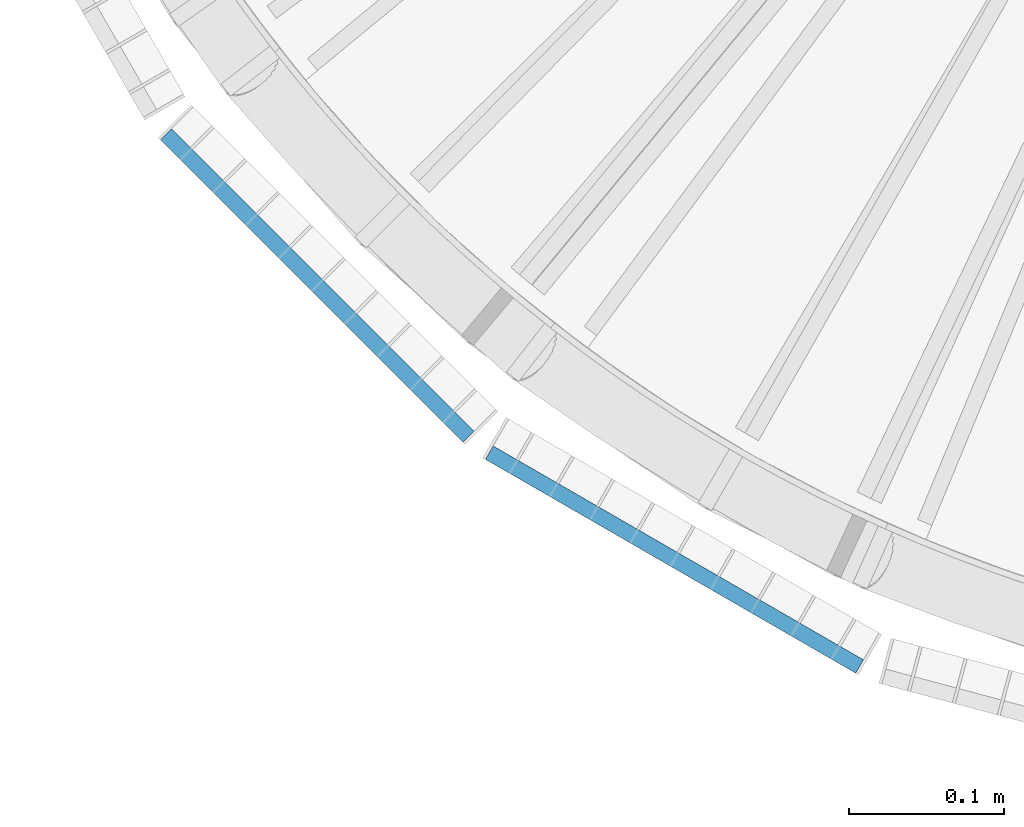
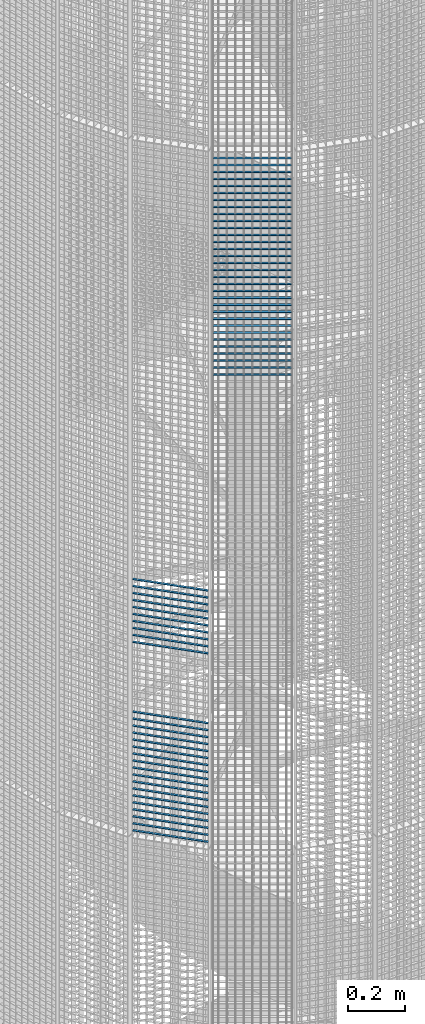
# One storey, part 353 of 1148: 60 beams, 2 elements without a shape of their own.
"""IFC2X3 building model written with IfcOpenShell, lengths in millimetres."""

from ifc_helpers import new_model, si_unit, frame, origin_with_axes, origin_2d_with_axis, place, context, subcontext, project, spatial, rectangle, extrude, material, type_object, element, aggregate, save


model = new_model("IFC2X3")

# Units and contexts
model_context = context("Model", 3, precision=1e-05, world=origin_with_axes())
body_context = subcontext(model_context, "Body", "Model", "MODEL_VIEW")
ifc_project = project(units=[si_unit("LENGTHUNIT", "METRE", prefix="MILLI"), si_unit("AREAUNIT", "SQUARE_METRE"), si_unit("VOLUMEUNIT", "CUBIC_METRE"), si_unit("MASSUNIT", "GRAM", prefix="KILO"), si_unit("TIMEUNIT", "SECOND"), si_unit("PLANEANGLEUNIT", "RADIAN"), si_unit("SOLIDANGLEUNIT", "STERADIAN"), si_unit("THERMODYNAMICTEMPERATUREUNIT", "DEGREE_CELSIUS"), si_unit("LUMINOUSINTENSITYUNIT", "LUMEN")], contexts=[model_context])

# Site, building, storey
site_placement = place(None, origin_with_axes())
site = spatial("IfcSite", under=ifc_project, at=site_placement, Name="Undefined", CompositionType="ELEMENT")
building_placement = place(site_placement, origin_with_axes())
building = spatial("IfcBuilding", under=site, at=building_placement, Name="Undefined", CompositionType="ELEMENT")
storey_placement = place(building_placement, origin_with_axes())
storey = spatial("IfcBuildingStorey", under=building, at=storey_placement, Name="Undefined", CompositionType="ELEMENT", Elevation=0.0)

# Assembly, beams
assembly_1_placement = place(storey_placement, origin_with_axes())
assembly_1 = element("IfcElementAssembly", 1, at=assembly_1_placement, inside=storey, Name="BORDURE", AssemblyPlace="NOTDEFINED", PredefinedType="NOTDEFINED")
ifc_material = material(Name="STEEL/S235JR")
beam_type = type_object("IfcBeamType", Name="PL2*10", PredefinedType="NOTDEFINED")
beam_1_placement = place(assembly_1_placement, frame((20910.2286510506, -884.927168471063, 6540.0), z_axis=(-0.70710678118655, -0.707106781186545, 0.0), x_axis=(-0.707106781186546, 0.707106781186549, 0.0)))
beam_1 = element("IfcBeam", 2, at=beam_1_placement, type_object=beam_type, material=ifc_material, Name="ENTRETOISE", context=body_context, shape_type="SweptSolid", body=[
    extrude(rectangle(XDim=2.0, YDim=10.0, at=origin_2d_with_axis()), frame((275.999999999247, 9.09494701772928e-13, 1.53210777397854e-14), z_axis=(-1.0, 0.0, 0.0), x_axis=(0.0, -1.0, 0.0)), (0.0, 0.0, 1.0), 276.0),
])
beam_2_placement = place(assembly_1_placement, frame((20910.2286510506, -884.927168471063, 6840.0), z_axis=(-0.70710678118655, -0.707106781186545, 0.0), x_axis=(-0.707106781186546, 0.707106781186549, 0.0)))
beam_2 = element("IfcBeam", 3, at=beam_2_placement, type_object=beam_type, material=ifc_material, Name="ENTRETOISE", context=body_context, shape_type="SweptSolid", body=[
    extrude(rectangle(XDim=2.0, YDim=10.0, at=origin_2d_with_axis()), frame((275.999999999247, 9.09494701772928e-13, 1.53210777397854e-14), z_axis=(-1.0, 0.0, 0.0), x_axis=(0.0, -1.0, 0.0)), (0.0, 0.0, 1.0), 276.0),
])
beam_3_placement = place(assembly_1_placement, frame((20910.2286510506, -884.927168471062, 6510.0), z_axis=(-0.70710678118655, -0.707106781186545, 0.0), x_axis=(-0.707106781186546, 0.707106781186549, 0.0)))
beam_3 = element("IfcBeam", 4, at=beam_3_placement, type_object=beam_type, material=ifc_material, Name="ENTRETOISE", context=body_context, shape_type="SweptSolid", body=[
    extrude(rectangle(XDim=2.0, YDim=10.0, at=origin_2d_with_axis()), frame((275.999999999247, 9.09494701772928e-13, 1.53210777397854e-14), z_axis=(-1.0, 0.0, 0.0), x_axis=(0.0, -1.0, 0.0)), (0.0, 0.0, 1.0), 276.0),
])
beam_4_placement = place(assembly_1_placement, frame((20910.2286510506, -884.927168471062, 6480.0), z_axis=(-0.70710678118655, -0.707106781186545, 0.0), x_axis=(-0.707106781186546, 0.707106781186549, 0.0)))
beam_4 = element("IfcBeam", 5, at=beam_4_placement, type_object=beam_type, material=ifc_material, Name="ENTRETOISE", context=body_context, shape_type="SweptSolid", body=[
    extrude(rectangle(XDim=2.0, YDim=10.0, at=origin_2d_with_axis()), frame((275.999999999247, 9.09494701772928e-13, 1.53210777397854e-14), z_axis=(-1.0, 0.0, 0.0), x_axis=(0.0, -1.0, 0.0)), (0.0, 0.0, 1.0), 276.0),
])
beam_5_placement = place(assembly_1_placement, frame((20910.2286510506, -884.927168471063, 6870.0), z_axis=(-0.70710678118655, -0.707106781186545, 0.0), x_axis=(-0.707106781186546, 0.707106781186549, 0.0)))
beam_5 = element("IfcBeam", 6, at=beam_5_placement, type_object=beam_type, material=ifc_material, Name="ENTRETOISE", context=body_context, shape_type="SweptSolid", body=[
    extrude(rectangle(XDim=2.0, YDim=10.0, at=origin_2d_with_axis()), frame((275.999999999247, 9.09494701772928e-13, 1.53210777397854e-14), z_axis=(-1.0, 0.0, 0.0), x_axis=(0.0, -1.0, 0.0)), (0.0, 0.0, 1.0), 276.0),
])
beam_6_placement = place(assembly_1_placement, frame((20910.2286510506, -884.927168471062, 6450.0), z_axis=(-0.70710678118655, -0.707106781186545, 0.0), x_axis=(-0.707106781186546, 0.707106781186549, 0.0)))
beam_6 = element("IfcBeam", 7, at=beam_6_placement, type_object=beam_type, material=ifc_material, Name="ENTRETOISE", context=body_context, shape_type="SweptSolid", body=[
    extrude(rectangle(XDim=2.0, YDim=10.0, at=origin_2d_with_axis()), frame((275.999999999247, 9.09494701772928e-13, 1.53210777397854e-14), z_axis=(-1.0, 0.0, 0.0), x_axis=(0.0, -1.0, 0.0)), (0.0, 0.0, 1.0), 276.0),
])
beam_7_placement = place(assembly_1_placement, frame((20910.2286510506, -884.927168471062, 6420.0), z_axis=(-0.70710678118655, -0.707106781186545, 0.0), x_axis=(-0.707106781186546, 0.707106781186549, 0.0)))
beam_7 = element("IfcBeam", 8, at=beam_7_placement, type_object=beam_type, material=ifc_material, Name="ENTRETOISE", context=body_context, shape_type="SweptSolid", body=[
    extrude(rectangle(XDim=2.0, YDim=10.0, at=origin_2d_with_axis()), frame((275.999999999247, 9.09494701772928e-13, 1.53210777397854e-14), z_axis=(-1.0, 0.0, 0.0), x_axis=(0.0, -1.0, 0.0)), (0.0, 0.0, 1.0), 276.0),
])
beam_8_placement = place(assembly_1_placement, frame((20910.2286510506, -884.927168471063, 6900.0), z_axis=(-0.70710678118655, -0.707106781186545, 0.0), x_axis=(-0.707106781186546, 0.707106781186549, 0.0)))
beam_8 = element("IfcBeam", 9, at=beam_8_placement, type_object=beam_type, material=ifc_material, Name="ENTRETOISE", context=body_context, shape_type="SweptSolid", body=[
    extrude(rectangle(XDim=2.0, YDim=10.0, at=origin_2d_with_axis()), frame((275.999999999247, 9.09494701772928e-13, 1.53210777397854e-14), z_axis=(-1.0, 0.0, 0.0), x_axis=(0.0, -1.0, 0.0)), (0.0, 0.0, 1.0), 276.0),
])
beam_9_placement = place(assembly_1_placement, frame((20910.2286510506, -884.927168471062, 6390.0), z_axis=(-0.70710678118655, -0.707106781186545, 0.0), x_axis=(-0.707106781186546, 0.707106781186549, 0.0)))
beam_9 = element("IfcBeam", 10, at=beam_9_placement, type_object=beam_type, material=ifc_material, Name="ENTRETOISE", context=body_context, shape_type="SweptSolid", body=[
    extrude(rectangle(XDim=2.0, YDim=10.0, at=origin_2d_with_axis()), frame((275.999999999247, 9.09494701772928e-13, 1.53210777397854e-14), z_axis=(-1.0, 0.0, 0.0), x_axis=(0.0, -1.0, 0.0)), (0.0, 0.0, 1.0), 276.0),
])
beam_10_placement = place(assembly_1_placement, frame((20910.2286510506, -884.927168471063, 6930.0), z_axis=(-0.70710678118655, -0.707106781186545, 0.0), x_axis=(-0.707106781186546, 0.707106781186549, 0.0)))
beam_10 = element("IfcBeam", 11, at=beam_10_placement, type_object=beam_type, material=ifc_material, Name="ENTRETOISE", context=body_context, shape_type="SweptSolid", body=[
    extrude(rectangle(XDim=2.0, YDim=10.0, at=origin_2d_with_axis()), frame((275.999999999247, 9.09494701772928e-13, 1.53210777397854e-14), z_axis=(-1.0, 0.0, 0.0), x_axis=(0.0, -1.0, 0.0)), (0.0, 0.0, 1.0), 276.0),
])
beam_11_placement = place(assembly_1_placement, frame((20910.2286510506, -884.927168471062, 6360.0), z_axis=(-0.70710678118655, -0.707106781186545, 0.0), x_axis=(-0.707106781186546, 0.707106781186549, 0.0)))
beam_11 = element("IfcBeam", 12, at=beam_11_placement, type_object=beam_type, material=ifc_material, Name="ENTRETOISE", context=body_context, shape_type="SweptSolid", body=[
    extrude(rectangle(XDim=2.0, YDim=10.0, at=origin_2d_with_axis()), frame((275.999999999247, 9.09494701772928e-13, 1.53210777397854e-14), z_axis=(-1.0, 0.0, 0.0), x_axis=(0.0, -1.0, 0.0)), (0.0, 0.0, 1.0), 276.0),
])
beam_12_placement = place(assembly_1_placement, frame((20910.2286510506, -884.927168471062, 6330.0), z_axis=(-0.70710678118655, -0.707106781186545, 0.0), x_axis=(-0.707106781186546, 0.707106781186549, 0.0)))
beam_12 = element("IfcBeam", 13, at=beam_12_placement, type_object=beam_type, material=ifc_material, Name="ENTRETOISE", context=body_context, shape_type="SweptSolid", body=[
    extrude(rectangle(XDim=2.0, YDim=10.0, at=origin_2d_with_axis()), frame((275.999999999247, 9.09494701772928e-13, 1.53210777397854e-14), z_axis=(-1.0, 0.0, 0.0), x_axis=(0.0, -1.0, 0.0)), (0.0, 0.0, 1.0), 276.0),
])
beam_13_placement = place(assembly_1_placement, frame((20910.2286510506, -884.927168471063, 6960.0), z_axis=(-0.70710678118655, -0.707106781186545, 0.0), x_axis=(-0.707106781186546, 0.707106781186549, 0.0)))
beam_13 = element("IfcBeam", 14, at=beam_13_placement, type_object=beam_type, material=ifc_material, Name="ENTRETOISE", context=body_context, shape_type="SweptSolid", body=[
    extrude(rectangle(XDim=2.0, YDim=10.0, at=origin_2d_with_axis()), frame((275.999999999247, 9.09494701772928e-13, 1.53210777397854e-14), z_axis=(-1.0, 0.0, 0.0), x_axis=(0.0, -1.0, 0.0)), (0.0, 0.0, 1.0), 276.0),
])
beam_14_placement = place(assembly_1_placement, frame((20910.2286510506, -884.927168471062, 6300.0), z_axis=(-0.70710678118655, -0.707106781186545, 0.0), x_axis=(-0.707106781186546, 0.707106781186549, 0.0)))
beam_14 = element("IfcBeam", 15, at=beam_14_placement, type_object=beam_type, material=ifc_material, Name="ENTRETOISE", context=body_context, shape_type="SweptSolid", body=[
    extrude(rectangle(XDim=2.0, YDim=10.0, at=origin_2d_with_axis()), frame((275.999999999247, 9.09494701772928e-13, 1.53210777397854e-14), z_axis=(-1.0, 0.0, 0.0), x_axis=(0.0, -1.0, 0.0)), (0.0, 0.0, 1.0), 276.0),
])
beam_15_placement = place(assembly_1_placement, frame((20910.2286510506, -884.927168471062, 6270.0), z_axis=(-0.70710678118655, -0.707106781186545, 0.0), x_axis=(-0.707106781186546, 0.707106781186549, 0.0)))
beam_15 = element("IfcBeam", 16, at=beam_15_placement, type_object=beam_type, material=ifc_material, Name="ENTRETOISE", context=body_context, shape_type="SweptSolid", body=[
    extrude(rectangle(XDim=2.0, YDim=10.0, at=origin_2d_with_axis()), frame((275.999999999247, 9.09494701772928e-13, 1.53210777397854e-14), z_axis=(-1.0, 0.0, 0.0), x_axis=(0.0, -1.0, 0.0)), (0.0, 0.0, 1.0), 276.0),
])
beam_16_placement = place(assembly_1_placement, frame((20910.2286510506, -884.927168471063, 6990.0), z_axis=(-0.70710678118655, -0.707106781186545, 0.0), x_axis=(-0.707106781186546, 0.707106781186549, 0.0)))
beam_16 = element("IfcBeam", 17, at=beam_16_placement, type_object=beam_type, material=ifc_material, Name="ENTRETOISE", context=body_context, shape_type="SweptSolid", body=[
    extrude(rectangle(XDim=2.0, YDim=10.0, at=origin_2d_with_axis()), frame((275.999999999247, 9.09494701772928e-13, 1.53210777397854e-14), z_axis=(-1.0, 0.0, 0.0), x_axis=(0.0, -1.0, 0.0)), (0.0, 0.0, 1.0), 276.0),
])
beam_17_placement = place(assembly_1_placement, frame((20910.2286510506, -884.927168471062, 6240.0), z_axis=(-0.70710678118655, -0.707106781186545, 0.0), x_axis=(-0.707106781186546, 0.707106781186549, 0.0)))
beam_17 = element("IfcBeam", 18, at=beam_17_placement, type_object=beam_type, material=ifc_material, Name="ENTRETOISE", context=body_context, shape_type="SweptSolid", body=[
    extrude(rectangle(XDim=2.0, YDim=10.0, at=origin_2d_with_axis()), frame((275.999999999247, 9.09494701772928e-13, 1.53210777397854e-14), z_axis=(-1.0, 0.0, 0.0), x_axis=(0.0, -1.0, 0.0)), (0.0, 0.0, 1.0), 276.0),
])
beam_18_placement = place(assembly_1_placement, frame((20910.2286510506, -884.927168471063, 7020.0), z_axis=(-0.70710678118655, -0.707106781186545, 0.0), x_axis=(-0.707106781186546, 0.707106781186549, 0.0)))
beam_18 = element("IfcBeam", 19, at=beam_18_placement, type_object=beam_type, material=ifc_material, Name="ENTRETOISE", context=body_context, shape_type="SweptSolid", body=[
    extrude(rectangle(XDim=2.0, YDim=10.0, at=origin_2d_with_axis()), frame((275.999999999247, 9.09494701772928e-13, 1.53210777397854e-14), z_axis=(-1.0, 0.0, 0.0), x_axis=(0.0, -1.0, 0.0)), (0.0, 0.0, 1.0), 276.0),
])
beam_19_placement = place(assembly_1_placement, frame((20910.2286510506, -884.927168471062, 6210.0), z_axis=(-0.70710678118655, -0.707106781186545, 0.0), x_axis=(-0.707106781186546, 0.707106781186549, 0.0)))
beam_19 = element("IfcBeam", 20, at=beam_19_placement, type_object=beam_type, material=ifc_material, Name="ENTRETOISE", context=body_context, shape_type="SweptSolid", body=[
    extrude(rectangle(XDim=2.0, YDim=10.0, at=origin_2d_with_axis()), frame((275.999999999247, 9.09494701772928e-13, 1.53210777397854e-14), z_axis=(-1.0, 0.0, 0.0), x_axis=(0.0, -1.0, 0.0)), (0.0, 0.0, 1.0), 276.0),
])
beam_20_placement = place(assembly_1_placement, frame((20910.2286510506, -884.927168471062, 6180.0), z_axis=(-0.70710678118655, -0.707106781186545, 0.0), x_axis=(-0.707106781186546, 0.707106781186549, 0.0)))
beam_20 = element("IfcBeam", 21, at=beam_20_placement, type_object=beam_type, material=ifc_material, Name="ENTRETOISE", context=body_context, shape_type="SweptSolid", body=[
    extrude(rectangle(XDim=2.0, YDim=10.0, at=origin_2d_with_axis()), frame((275.999999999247, 9.09494701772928e-13, 1.53210777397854e-14), z_axis=(-1.0, 0.0, 0.0), x_axis=(0.0, -1.0, 0.0)), (0.0, 0.0, 1.0), 276.0),
])
beam_21_placement = place(assembly_1_placement, frame((20910.2286510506, -884.927168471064, 7050.0), z_axis=(-0.70710678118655, -0.707106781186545, 0.0), x_axis=(-0.707106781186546, 0.707106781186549, 0.0)))
beam_21 = element("IfcBeam", 22, at=beam_21_placement, type_object=beam_type, material=ifc_material, Name="ENTRETOISE", context=body_context, shape_type="SweptSolid", body=[
    extrude(rectangle(XDim=2.0, YDim=10.0, at=origin_2d_with_axis()), frame((275.999999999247, 9.09494701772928e-13, 1.53210777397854e-14), z_axis=(-1.0, 0.0, 0.0), x_axis=(0.0, -1.0, 0.0)), (0.0, 0.0, 1.0), 276.0),
])
beam_22_placement = place(assembly_1_placement, frame((20910.2286510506, -884.927168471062, 6150.0), z_axis=(-0.70710678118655, -0.707106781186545, 0.0), x_axis=(-0.707106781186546, 0.707106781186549, 0.0)))
beam_22 = element("IfcBeam", 23, at=beam_22_placement, type_object=beam_type, material=ifc_material, Name="ENTRETOISE", context=body_context, shape_type="SweptSolid", body=[
    extrude(rectangle(XDim=2.0, YDim=10.0, at=origin_2d_with_axis()), frame((275.999999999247, 9.09494701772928e-13, 1.53210777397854e-14), z_axis=(-1.0, 0.0, 0.0), x_axis=(0.0, -1.0, 0.0)), (0.0, 0.0, 1.0), 276.0),
])
beam_23_placement = place(assembly_1_placement, frame((20910.2286510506, -884.927168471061, 6120.0), z_axis=(-0.70710678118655, -0.707106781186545, 0.0), x_axis=(-0.707106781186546, 0.707106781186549, 0.0)))
beam_23 = element("IfcBeam", 24, at=beam_23_placement, type_object=beam_type, material=ifc_material, Name="ENTRETOISE", context=body_context, shape_type="SweptSolid", body=[
    extrude(rectangle(XDim=2.0, YDim=10.0, at=origin_2d_with_axis()), frame((275.999999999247, 9.09494701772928e-13, 1.53210777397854e-14), z_axis=(-1.0, 0.0, 0.0), x_axis=(0.0, -1.0, 0.0)), (0.0, 0.0, 1.0), 276.0),
])
beam_24_placement = place(assembly_1_placement, frame((20910.2286510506, -884.927168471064, 7080.0), z_axis=(-0.70710678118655, -0.707106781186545, 0.0), x_axis=(-0.707106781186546, 0.707106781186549, 0.0)))
beam_24 = element("IfcBeam", 25, at=beam_24_placement, type_object=beam_type, material=ifc_material, Name="ENTRETOISE", context=body_context, shape_type="SweptSolid", body=[
    extrude(rectangle(XDim=2.0, YDim=10.0, at=origin_2d_with_axis()), frame((275.999999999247, 9.09494701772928e-13, 1.53210777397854e-14), z_axis=(-1.0, 0.0, 0.0), x_axis=(0.0, -1.0, 0.0)), (0.0, 0.0, 1.0), 276.0),
])
beam_25_placement = place(assembly_1_placement, frame((20910.2286510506, -884.927168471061, 6090.0), z_axis=(-0.70710678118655, -0.707106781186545, 0.0), x_axis=(-0.707106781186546, 0.707106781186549, 0.0)))
beam_25 = element("IfcBeam", 26, at=beam_25_placement, type_object=beam_type, material=ifc_material, Name="ENTRETOISE", context=body_context, shape_type="SweptSolid", body=[
    extrude(rectangle(XDim=2.0, YDim=10.0, at=origin_2d_with_axis()), frame((275.999999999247, 9.09494701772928e-13, 1.53210777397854e-14), z_axis=(-1.0, 0.0, 0.0), x_axis=(0.0, -1.0, 0.0)), (0.0, 0.0, 1.0), 276.0),
])
beam_26_placement = place(assembly_1_placement, frame((20910.2286510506, -884.927168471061, 6060.0), z_axis=(-0.70710678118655, -0.707106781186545, 0.0), x_axis=(-0.707106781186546, 0.707106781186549, 0.0)))
beam_26 = element("IfcBeam", 27, at=beam_26_placement, type_object=beam_type, material=ifc_material, Name="ENTRETOISE", context=body_context, shape_type="SweptSolid", body=[
    extrude(rectangle(XDim=2.0, YDim=10.0, at=origin_2d_with_axis()), frame((275.999999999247, 9.09494701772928e-13, 1.53210777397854e-14), z_axis=(-1.0, 0.0, 0.0), x_axis=(0.0, -1.0, 0.0)), (0.0, 0.0, 1.0), 276.0),
])
beam_27_placement = place(assembly_1_placement, frame((20910.2286510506, -884.927168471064, 7110.0), z_axis=(-0.70710678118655, -0.707106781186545, 0.0), x_axis=(-0.707106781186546, 0.707106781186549, 0.0)))
beam_27 = element("IfcBeam", 28, at=beam_27_placement, type_object=beam_type, material=ifc_material, Name="ENTRETOISE", context=body_context, shape_type="SweptSolid", body=[
    extrude(rectangle(XDim=2.0, YDim=10.0, at=origin_2d_with_axis()), frame((275.999999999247, 9.09494701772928e-13, 1.53210777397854e-14), z_axis=(-1.0, 0.0, 0.0), x_axis=(0.0, -1.0, 0.0)), (0.0, 0.0, 1.0), 276.0),
])
beam_28_placement = place(assembly_1_placement, frame((20910.2286510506, -884.92716847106, 6030.0), z_axis=(-0.70710678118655, -0.707106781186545, 0.0), x_axis=(-0.707106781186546, 0.707106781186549, 0.0)))
beam_28 = element("IfcBeam", 29, at=beam_28_placement, type_object=beam_type, material=ifc_material, Name="ENTRETOISE", context=body_context, shape_type="SweptSolid", body=[
    extrude(rectangle(XDim=2.0, YDim=10.0, at=origin_2d_with_axis()), frame((275.999999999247, 9.09494701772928e-13, 1.53210777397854e-14), z_axis=(-1.0, 0.0, 0.0), x_axis=(0.0, -1.0, 0.0)), (0.0, 0.0, 1.0), 276.0),
])
aggregate(assembly_1, [beam_1, beam_2, beam_3, beam_4, beam_5, beam_6, beam_7, beam_8, beam_9, beam_10, beam_11, beam_12, beam_13, beam_14, beam_15, beam_16, beam_17, beam_18, beam_19, beam_20, beam_21, beam_22, beam_23, beam_24, beam_25, beam_26, beam_27, beam_28])

assembly_2_placement = place(storey_placement, origin_with_axes())
assembly_2 = element("IfcElementAssembly", 30, at=assembly_2_placement, inside=storey, Name="BORDURE", AssemblyPlace="NOTDEFINED", PredefinedType="NOTDEFINED")
beam_29_placement = place(assembly_2_placement, frame((21162.7680445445, -1033.29996828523, 8970.0), z_axis=(-0.49999999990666, -0.866025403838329, 0.0), x_axis=(-0.866025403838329, 0.499999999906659, 0.0)))
beam_29 = element("IfcBeam", 31, at=beam_29_placement, type_object=beam_type, material=ifc_material, Name="ENTRETOISE", context=body_context, shape_type="SweptSolid", body=[
    extrude(rectangle(XDim=2.0, YDim=10.0, at=origin_2d_with_axis()), frame((275.999999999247, 9.09494701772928e-13, 1.53210777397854e-14), z_axis=(-1.0, 0.0, 0.0), x_axis=(0.0, -1.0, 0.0)), (0.0, 0.0, 1.0), 276.0),
])
beam_30_placement = place(assembly_2_placement, frame((21162.7680445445, -1033.29996828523, 8940.0), z_axis=(-0.49999999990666, -0.866025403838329, 0.0), x_axis=(-0.866025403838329, 0.499999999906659, 0.0)))
beam_30 = element("IfcBeam", 32, at=beam_30_placement, type_object=beam_type, material=ifc_material, Name="ENTRETOISE", context=body_context, shape_type="SweptSolid", body=[
    extrude(rectangle(XDim=2.0, YDim=10.0, at=origin_2d_with_axis()), frame((275.999999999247, 9.09494701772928e-13, 1.53210777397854e-14), z_axis=(-1.0, 0.0, 0.0), x_axis=(0.0, -1.0, 0.0)), (0.0, 0.0, 1.0), 276.0),
])
beam_31_placement = place(assembly_2_placement, frame((21162.7680445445, -1033.29996828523, 8910.0), z_axis=(-0.49999999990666, -0.866025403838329, 0.0), x_axis=(-0.866025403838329, 0.499999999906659, 0.0)))
beam_31 = element("IfcBeam", 33, at=beam_31_placement, type_object=beam_type, material=ifc_material, Name="ENTRETOISE", context=body_context, shape_type="SweptSolid", body=[
    extrude(rectangle(XDim=2.0, YDim=10.0, at=origin_2d_with_axis()), frame((275.999999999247, 9.09494701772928e-13, 1.53210777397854e-14), z_axis=(-1.0, 0.0, 0.0), x_axis=(0.0, -1.0, 0.0)), (0.0, 0.0, 1.0), 276.0),
])
beam_32_placement = place(assembly_2_placement, frame((21162.7680445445, -1033.29996828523, 8880.0), z_axis=(-0.49999999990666, -0.866025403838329, 0.0), x_axis=(-0.866025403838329, 0.499999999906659, 0.0)))
beam_32 = element("IfcBeam", 34, at=beam_32_placement, type_object=beam_type, material=ifc_material, Name="ENTRETOISE", context=body_context, shape_type="SweptSolid", body=[
    extrude(rectangle(XDim=2.0, YDim=10.0, at=origin_2d_with_axis()), frame((275.999999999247, 9.09494701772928e-13, 1.53210777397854e-14), z_axis=(-1.0, 0.0, 0.0), x_axis=(0.0, -1.0, 0.0)), (0.0, 0.0, 1.0), 276.0),
])
beam_33_placement = place(assembly_2_placement, frame((21162.7680445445, -1033.29996828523, 8850.0), z_axis=(-0.49999999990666, -0.866025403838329, 0.0), x_axis=(-0.866025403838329, 0.499999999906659, 0.0)))
beam_33 = element("IfcBeam", 35, at=beam_33_placement, type_object=beam_type, material=ifc_material, Name="ENTRETOISE", context=body_context, shape_type="SweptSolid", body=[
    extrude(rectangle(XDim=2.0, YDim=10.0, at=origin_2d_with_axis()), frame((275.999999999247, 9.09494701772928e-13, 1.53210777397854e-14), z_axis=(-1.0, 0.0, 0.0), x_axis=(0.0, -1.0, 0.0)), (0.0, 0.0, 1.0), 276.0),
])
beam_34_placement = place(assembly_2_placement, frame((21162.7680445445, -1033.29996828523, 8820.0), z_axis=(-0.49999999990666, -0.866025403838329, 0.0), x_axis=(-0.866025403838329, 0.499999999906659, 0.0)))
beam_34 = element("IfcBeam", 36, at=beam_34_placement, type_object=beam_type, material=ifc_material, Name="ENTRETOISE", context=body_context, shape_type="SweptSolid", body=[
    extrude(rectangle(XDim=2.0, YDim=10.0, at=origin_2d_with_axis()), frame((275.999999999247, 9.09494701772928e-13, 1.53210777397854e-14), z_axis=(-1.0, 0.0, 0.0), x_axis=(0.0, -1.0, 0.0)), (0.0, 0.0, 1.0), 276.0),
])
beam_35_placement = place(assembly_2_placement, frame((21162.7680445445, -1033.29996828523, 8790.0), z_axis=(-0.49999999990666, -0.866025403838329, 0.0), x_axis=(-0.866025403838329, 0.499999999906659, 0.0)))
beam_35 = element("IfcBeam", 37, at=beam_35_placement, type_object=beam_type, material=ifc_material, Name="ENTRETOISE", context=body_context, shape_type="SweptSolid", body=[
    extrude(rectangle(XDim=2.0, YDim=10.0, at=origin_2d_with_axis()), frame((275.999999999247, 9.09494701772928e-13, 1.53210777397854e-14), z_axis=(-1.0, 0.0, 0.0), x_axis=(0.0, -1.0, 0.0)), (0.0, 0.0, 1.0), 276.0),
])
beam_36_placement = place(assembly_2_placement, frame((21162.7680445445, -1033.29996828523, 8760.0), z_axis=(-0.49999999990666, -0.866025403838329, 0.0), x_axis=(-0.866025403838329, 0.499999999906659, 0.0)))
beam_36 = element("IfcBeam", 38, at=beam_36_placement, type_object=beam_type, material=ifc_material, Name="ENTRETOISE", context=body_context, shape_type="SweptSolid", body=[
    extrude(rectangle(XDim=2.0, YDim=10.0, at=origin_2d_with_axis()), frame((275.999999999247, 9.09494701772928e-13, 1.53210777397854e-14), z_axis=(-1.0, 0.0, 0.0), x_axis=(0.0, -1.0, 0.0)), (0.0, 0.0, 1.0), 276.0),
])
beam_37_placement = place(assembly_2_placement, frame((21162.7680445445, -1033.29996828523, 8730.0), z_axis=(-0.49999999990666, -0.866025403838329, 0.0), x_axis=(-0.866025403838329, 0.499999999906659, 0.0)))
beam_37 = element("IfcBeam", 39, at=beam_37_placement, type_object=beam_type, material=ifc_material, Name="ENTRETOISE", context=body_context, shape_type="SweptSolid", body=[
    extrude(rectangle(XDim=2.0, YDim=10.0, at=origin_2d_with_axis()), frame((275.999999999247, 9.09494701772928e-13, 1.53210777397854e-14), z_axis=(-1.0, 0.0, 0.0), x_axis=(0.0, -1.0, 0.0)), (0.0, 0.0, 1.0), 276.0),
])
beam_38_placement = place(assembly_2_placement, frame((21162.7680445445, -1033.29996828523, 8700.0), z_axis=(-0.49999999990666, -0.866025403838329, 0.0), x_axis=(-0.866025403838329, 0.499999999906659, 0.0)))
beam_38 = element("IfcBeam", 40, at=beam_38_placement, type_object=beam_type, material=ifc_material, Name="ENTRETOISE", context=body_context, shape_type="SweptSolid", body=[
    extrude(rectangle(XDim=2.0, YDim=10.0, at=origin_2d_with_axis()), frame((275.999999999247, 9.09494701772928e-13, 1.53210777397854e-14), z_axis=(-1.0, 0.0, 0.0), x_axis=(0.0, -1.0, 0.0)), (0.0, 0.0, 1.0), 276.0),
])
beam_39_placement = place(assembly_2_placement, frame((21162.7680445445, -1033.29996828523, 8670.0), z_axis=(-0.49999999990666, -0.866025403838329, 0.0), x_axis=(-0.866025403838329, 0.499999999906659, 0.0)))
beam_39 = element("IfcBeam", 41, at=beam_39_placement, type_object=beam_type, material=ifc_material, Name="ENTRETOISE", context=body_context, shape_type="SweptSolid", body=[
    extrude(rectangle(XDim=2.0, YDim=10.0, at=origin_2d_with_axis()), frame((275.999999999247, 9.09494701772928e-13, 1.53210777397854e-14), z_axis=(-1.0, 0.0, 0.0), x_axis=(0.0, -1.0, 0.0)), (0.0, 0.0, 1.0), 276.0),
])
beam_40_placement = place(assembly_2_placement, frame((21162.7680445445, -1033.29996828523, 8640.0), z_axis=(-0.49999999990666, -0.866025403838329, 0.0), x_axis=(-0.866025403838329, 0.499999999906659, 0.0)))
beam_40 = element("IfcBeam", 42, at=beam_40_placement, type_object=beam_type, material=ifc_material, Name="ENTRETOISE", context=body_context, shape_type="SweptSolid", body=[
    extrude(rectangle(XDim=2.0, YDim=10.0, at=origin_2d_with_axis()), frame((275.999999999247, 9.09494701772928e-13, 1.53210777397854e-14), z_axis=(-1.0, 0.0, 0.0), x_axis=(0.0, -1.0, 0.0)), (0.0, 0.0, 1.0), 276.0),
])
beam_41_placement = place(assembly_2_placement, frame((21162.7680445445, -1033.29996828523, 8610.0), z_axis=(-0.49999999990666, -0.866025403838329, 0.0), x_axis=(-0.866025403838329, 0.499999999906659, 0.0)))
beam_41 = element("IfcBeam", 43, at=beam_41_placement, type_object=beam_type, material=ifc_material, Name="ENTRETOISE", context=body_context, shape_type="SweptSolid", body=[
    extrude(rectangle(XDim=2.0, YDim=10.0, at=origin_2d_with_axis()), frame((275.999999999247, 9.09494701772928e-13, 1.53210777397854e-14), z_axis=(-1.0, 0.0, 0.0), x_axis=(0.0, -1.0, 0.0)), (0.0, 0.0, 1.0), 276.0),
])
beam_42_placement = place(assembly_2_placement, frame((21162.7680445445, -1033.29996828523, 8580.0), z_axis=(-0.49999999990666, -0.866025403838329, 0.0), x_axis=(-0.866025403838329, 0.499999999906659, 0.0)))
beam_42 = element("IfcBeam", 44, at=beam_42_placement, type_object=beam_type, material=ifc_material, Name="ENTRETOISE", context=body_context, shape_type="SweptSolid", body=[
    extrude(rectangle(XDim=2.0, YDim=10.0, at=origin_2d_with_axis()), frame((275.999999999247, 9.09494701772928e-13, 1.53210777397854e-14), z_axis=(-1.0, 0.0, 0.0), x_axis=(0.0, -1.0, 0.0)), (0.0, 0.0, 1.0), 276.0),
])
beam_43_placement = place(assembly_2_placement, frame((21162.7680445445, -1033.29996828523, 8550.0), z_axis=(-0.49999999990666, -0.866025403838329, 0.0), x_axis=(-0.866025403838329, 0.499999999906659, 0.0)))
beam_43 = element("IfcBeam", 45, at=beam_43_placement, type_object=beam_type, material=ifc_material, Name="ENTRETOISE", context=body_context, shape_type="SweptSolid", body=[
    extrude(rectangle(XDim=2.0, YDim=10.0, at=origin_2d_with_axis()), frame((275.999999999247, 9.09494701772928e-13, 1.53210777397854e-14), z_axis=(-1.0, 0.0, 0.0), x_axis=(0.0, -1.0, 0.0)), (0.0, 0.0, 1.0), 276.0),
])
beam_44_placement = place(assembly_2_placement, frame((21162.7680445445, -1033.29996828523, 8520.0), z_axis=(-0.49999999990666, -0.866025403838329, 0.0), x_axis=(-0.866025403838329, 0.499999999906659, 0.0)))
beam_44 = element("IfcBeam", 46, at=beam_44_placement, type_object=beam_type, material=ifc_material, Name="ENTRETOISE", context=body_context, shape_type="SweptSolid", body=[
    extrude(rectangle(XDim=2.0, YDim=10.0, at=origin_2d_with_axis()), frame((275.999999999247, 9.09494701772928e-13, 1.53210777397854e-14), z_axis=(-1.0, 0.0, 0.0), x_axis=(0.0, -1.0, 0.0)), (0.0, 0.0, 1.0), 276.0),
])
beam_45_placement = place(assembly_2_placement, frame((21162.7680445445, -1033.29996828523, 8490.0), z_axis=(-0.49999999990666, -0.866025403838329, 0.0), x_axis=(-0.866025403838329, 0.499999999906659, 0.0)))
beam_45 = element("IfcBeam", 47, at=beam_45_placement, type_object=beam_type, material=ifc_material, Name="ENTRETOISE", context=body_context, shape_type="SweptSolid", body=[
    extrude(rectangle(XDim=2.0, YDim=10.0, at=origin_2d_with_axis()), frame((275.999999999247, 9.09494701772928e-13, 1.53210777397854e-14), z_axis=(-1.0, 0.0, 0.0), x_axis=(0.0, -1.0, 0.0)), (0.0, 0.0, 1.0), 276.0),
])
beam_46_placement = place(assembly_2_placement, frame((21162.7680445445, -1033.29996828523, 8460.0), z_axis=(-0.49999999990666, -0.866025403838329, 0.0), x_axis=(-0.866025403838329, 0.499999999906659, 0.0)))
beam_46 = element("IfcBeam", 48, at=beam_46_placement, type_object=beam_type, material=ifc_material, Name="ENTRETOISE", context=body_context, shape_type="SweptSolid", body=[
    extrude(rectangle(XDim=2.0, YDim=10.0, at=origin_2d_with_axis()), frame((275.999999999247, 9.09494701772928e-13, 1.53210777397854e-14), z_axis=(-1.0, 0.0, 0.0), x_axis=(0.0, -1.0, 0.0)), (0.0, 0.0, 1.0), 276.0),
])
beam_47_placement = place(assembly_2_placement, frame((21162.7680445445, -1033.29996828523, 8430.0), z_axis=(-0.49999999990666, -0.866025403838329, 0.0), x_axis=(-0.866025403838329, 0.499999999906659, 0.0)))
beam_47 = element("IfcBeam", 49, at=beam_47_placement, type_object=beam_type, material=ifc_material, Name="ENTRETOISE", context=body_context, shape_type="SweptSolid", body=[
    extrude(rectangle(XDim=2.0, YDim=10.0, at=origin_2d_with_axis()), frame((275.999999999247, 9.09494701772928e-13, 1.53210777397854e-14), z_axis=(-1.0, 0.0, 0.0), x_axis=(0.0, -1.0, 0.0)), (0.0, 0.0, 1.0), 276.0),
])
beam_48_placement = place(assembly_2_placement, frame((21162.7680445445, -1033.29996828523, 8400.0), z_axis=(-0.49999999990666, -0.866025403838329, 0.0), x_axis=(-0.866025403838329, 0.499999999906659, 0.0)))
beam_48 = element("IfcBeam", 50, at=beam_48_placement, type_object=beam_type, material=ifc_material, Name="ENTRETOISE", context=body_context, shape_type="SweptSolid", body=[
    extrude(rectangle(XDim=2.0, YDim=10.0, at=origin_2d_with_axis()), frame((275.999999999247, 9.09494701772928e-13, 1.53210777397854e-14), z_axis=(-1.0, 0.0, 0.0), x_axis=(0.0, -1.0, 0.0)), (0.0, 0.0, 1.0), 276.0),
])
beam_49_placement = place(assembly_2_placement, frame((21162.7680445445, -1033.29996828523, 8370.0), z_axis=(-0.49999999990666, -0.866025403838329, 0.0), x_axis=(-0.866025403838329, 0.499999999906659, 0.0)))
beam_49 = element("IfcBeam", 51, at=beam_49_placement, type_object=beam_type, material=ifc_material, Name="ENTRETOISE", context=body_context, shape_type="SweptSolid", body=[
    extrude(rectangle(XDim=2.0, YDim=10.0, at=origin_2d_with_axis()), frame((275.999999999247, 9.09494701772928e-13, 1.53210777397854e-14), z_axis=(-1.0, 0.0, 0.0), x_axis=(0.0, -1.0, 0.0)), (0.0, 0.0, 1.0), 276.0),
])
beam_50_placement = place(assembly_2_placement, frame((21162.7680445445, -1033.29996828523, 8340.0), z_axis=(-0.49999999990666, -0.866025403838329, 0.0), x_axis=(-0.866025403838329, 0.499999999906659, 0.0)))
beam_50 = element("IfcBeam", 52, at=beam_50_placement, type_object=beam_type, material=ifc_material, Name="ENTRETOISE", context=body_context, shape_type="SweptSolid", body=[
    extrude(rectangle(XDim=2.0, YDim=10.0, at=origin_2d_with_axis()), frame((275.999999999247, 9.09494701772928e-13, 1.53210777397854e-14), z_axis=(-1.0, 0.0, 0.0), x_axis=(0.0, -1.0, 0.0)), (0.0, 0.0, 1.0), 276.0),
])
beam_51_placement = place(assembly_2_placement, frame((21162.7680445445, -1033.29996828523, 8310.0), z_axis=(-0.49999999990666, -0.866025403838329, 0.0), x_axis=(-0.866025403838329, 0.499999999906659, 0.0)))
beam_51 = element("IfcBeam", 53, at=beam_51_placement, type_object=beam_type, material=ifc_material, Name="ENTRETOISE", context=body_context, shape_type="SweptSolid", body=[
    extrude(rectangle(XDim=2.0, YDim=10.0, at=origin_2d_with_axis()), frame((275.999999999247, 9.09494701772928e-13, 1.53210777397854e-14), z_axis=(-1.0, 0.0, 0.0), x_axis=(0.0, -1.0, 0.0)), (0.0, 0.0, 1.0), 276.0),
])
beam_52_placement = place(assembly_2_placement, frame((21162.7680445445, -1033.29996828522, 8280.0), z_axis=(-0.49999999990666, -0.866025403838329, 0.0), x_axis=(-0.866025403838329, 0.499999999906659, 0.0)))
beam_52 = element("IfcBeam", 54, at=beam_52_placement, type_object=beam_type, material=ifc_material, Name="ENTRETOISE", context=body_context, shape_type="SweptSolid", body=[
    extrude(rectangle(XDim=2.0, YDim=10.0, at=origin_2d_with_axis()), frame((275.999999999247, 9.09494701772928e-13, 1.53210777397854e-14), z_axis=(-1.0, 0.0, 0.0), x_axis=(0.0, -1.0, 0.0)), (0.0, 0.0, 1.0), 276.0),
])
beam_53_placement = place(assembly_2_placement, frame((21162.7680445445, -1033.29996828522, 8250.0), z_axis=(-0.49999999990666, -0.866025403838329, 0.0), x_axis=(-0.866025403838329, 0.499999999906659, 0.0)))
beam_53 = element("IfcBeam", 55, at=beam_53_placement, type_object=beam_type, material=ifc_material, Name="ENTRETOISE", context=body_context, shape_type="SweptSolid", body=[
    extrude(rectangle(XDim=2.0, YDim=10.0, at=origin_2d_with_axis()), frame((275.999999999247, 9.09494701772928e-13, 1.53210777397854e-14), z_axis=(-1.0, 0.0, 0.0), x_axis=(0.0, -1.0, 0.0)), (0.0, 0.0, 1.0), 276.0),
])
beam_54_placement = place(assembly_2_placement, frame((21162.7680445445, -1033.29996828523, 8220.0), z_axis=(-0.49999999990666, -0.866025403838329, 0.0), x_axis=(-0.866025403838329, 0.499999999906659, 0.0)))
beam_54 = element("IfcBeam", 56, at=beam_54_placement, type_object=beam_type, material=ifc_material, Name="ENTRETOISE", context=body_context, shape_type="SweptSolid", body=[
    extrude(rectangle(XDim=2.0, YDim=10.0, at=origin_2d_with_axis()), frame((275.999999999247, 9.09494701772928e-13, 1.53210777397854e-14), z_axis=(-1.0, 0.0, 0.0), x_axis=(0.0, -1.0, 0.0)), (0.0, 0.0, 1.0), 276.0),
])
beam_55_placement = place(assembly_2_placement, frame((21162.7680445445, -1033.29996828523, 8190.0), z_axis=(-0.49999999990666, -0.866025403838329, 0.0), x_axis=(-0.866025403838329, 0.499999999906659, 0.0)))
beam_55 = element("IfcBeam", 57, at=beam_55_placement, type_object=beam_type, material=ifc_material, Name="ENTRETOISE", context=body_context, shape_type="SweptSolid", body=[
    extrude(rectangle(XDim=2.0, YDim=10.0, at=origin_2d_with_axis()), frame((275.999999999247, 9.09494701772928e-13, 1.53210777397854e-14), z_axis=(-1.0, 0.0, 0.0), x_axis=(0.0, -1.0, 0.0)), (0.0, 0.0, 1.0), 276.0),
])
beam_56_placement = place(assembly_2_placement, frame((21162.7680445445, -1033.29996828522, 8160.0), z_axis=(-0.49999999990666, -0.866025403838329, 0.0), x_axis=(-0.866025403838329, 0.499999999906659, 0.0)))
beam_56 = element("IfcBeam", 58, at=beam_56_placement, type_object=beam_type, material=ifc_material, Name="ENTRETOISE", context=body_context, shape_type="SweptSolid", body=[
    extrude(rectangle(XDim=2.0, YDim=10.0, at=origin_2d_with_axis()), frame((275.999999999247, 9.09494701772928e-13, 1.53210777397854e-14), z_axis=(-1.0, 0.0, 0.0), x_axis=(0.0, -1.0, 0.0)), (0.0, 0.0, 1.0), 276.0),
])
beam_57_placement = place(assembly_2_placement, frame((21162.7680445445, -1033.29996828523, 8130.0), z_axis=(-0.49999999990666, -0.866025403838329, 0.0), x_axis=(-0.866025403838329, 0.499999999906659, 0.0)))
beam_57 = element("IfcBeam", 59, at=beam_57_placement, type_object=beam_type, material=ifc_material, Name="ENTRETOISE", context=body_context, shape_type="SweptSolid", body=[
    extrude(rectangle(XDim=2.0, YDim=10.0, at=origin_2d_with_axis()), frame((275.999999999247, 9.09494701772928e-13, 1.53210777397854e-14), z_axis=(-1.0, 0.0, 0.0), x_axis=(0.0, -1.0, 0.0)), (0.0, 0.0, 1.0), 276.0),
])
beam_58_placement = place(assembly_2_placement, frame((21162.7680445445, -1033.29996828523, 8100.0), z_axis=(-0.49999999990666, -0.866025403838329, 0.0), x_axis=(-0.866025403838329, 0.499999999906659, 0.0)))
beam_58 = element("IfcBeam", 60, at=beam_58_placement, type_object=beam_type, material=ifc_material, Name="ENTRETOISE", context=body_context, shape_type="SweptSolid", body=[
    extrude(rectangle(XDim=2.0, YDim=10.0, at=origin_2d_with_axis()), frame((275.999999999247, 9.09494701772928e-13, 1.53210777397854e-14), z_axis=(-1.0, 0.0, 0.0), x_axis=(0.0, -1.0, 0.0)), (0.0, 0.0, 1.0), 276.0),
])
beam_59_placement = place(assembly_2_placement, frame((21162.7680445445, -1033.29996828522, 8070.0), z_axis=(-0.49999999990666, -0.866025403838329, 0.0), x_axis=(-0.866025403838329, 0.499999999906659, 0.0)))
beam_59 = element("IfcBeam", 61, at=beam_59_placement, type_object=beam_type, material=ifc_material, Name="ENTRETOISE", context=body_context, shape_type="SweptSolid", body=[
    extrude(rectangle(XDim=2.0, YDim=10.0, at=origin_2d_with_axis()), frame((275.999999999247, 9.09494701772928e-13, 1.53210777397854e-14), z_axis=(-1.0, 0.0, 0.0), x_axis=(0.0, -1.0, 0.0)), (0.0, 0.0, 1.0), 276.0),
])
beam_60_placement = place(assembly_2_placement, frame((21162.7680445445, -1033.29996828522, 8040.0), z_axis=(-0.49999999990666, -0.866025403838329, 0.0), x_axis=(-0.866025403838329, 0.499999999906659, 0.0)))
beam_60 = element("IfcBeam", 62, at=beam_60_placement, type_object=beam_type, material=ifc_material, Name="ENTRETOISE", context=body_context, shape_type="SweptSolid", body=[
    extrude(rectangle(XDim=2.0, YDim=10.0, at=origin_2d_with_axis()), frame((275.999999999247, 9.09494701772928e-13, 1.53210777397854e-14), z_axis=(-1.0, 0.0, 0.0), x_axis=(0.0, -1.0, 0.0)), (0.0, 0.0, 1.0), 276.0),
])
aggregate(assembly_2, [beam_29, beam_30, beam_31, beam_32, beam_33, beam_34, beam_35, beam_36, beam_37, beam_38, beam_39, beam_40, beam_41, beam_42, beam_43, beam_44, beam_45, beam_46, beam_47, beam_48, beam_49, beam_50, beam_51, beam_52, beam_53, beam_54, beam_55, beam_56, beam_57, beam_58, beam_59, beam_60])

save(model, "model.ifc")
